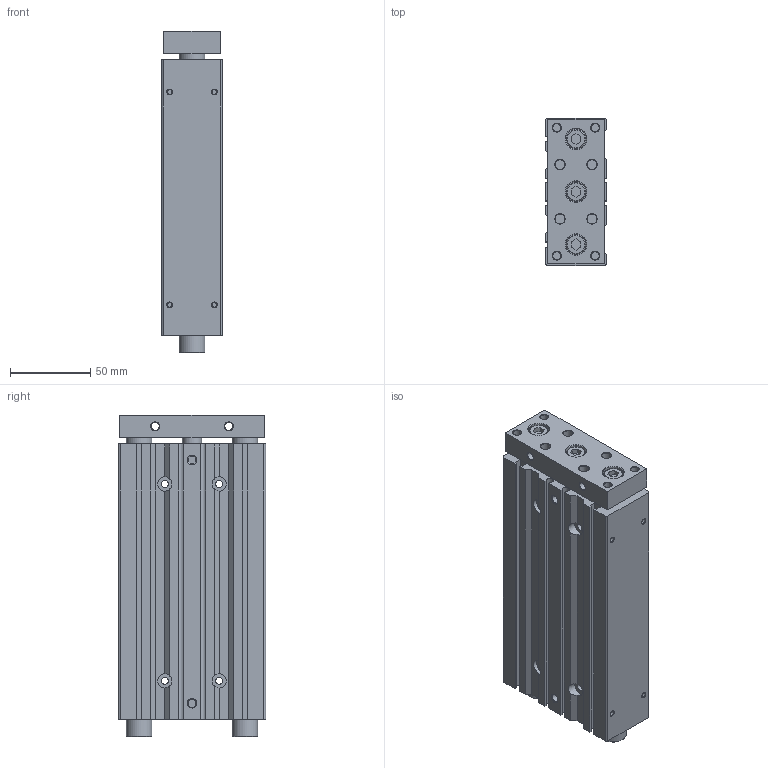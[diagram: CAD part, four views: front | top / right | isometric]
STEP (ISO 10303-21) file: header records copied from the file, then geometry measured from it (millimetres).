
FILE_DESCRIPTION((''),'2;1');
FILE_NAME('I:\3D電子目錄\氣缸\TB(U)\TB(U)25\TB(U)25\TB(U)25x125.stp','2007-08-06T08:24:03',('Administrator'),(''),'Autodesk Inventor 2008','Autodesk Inventor 2008','');
FILE_SCHEMA(('AUTOMOTIVE_DESIGN { 1 0 10303 214 1 1 1 1 }'));
Length unit declared in the file: millimetre
Products named in the file (1): TB(U)25X125
Bounding box: 38 x 92 x 201 mm (x, y, z)
Volume: 597667.3 mm3; surface area: 83718.1 mm2
Topology: 1 solids, 1 shells, 214 faces, 500 edges, 318 vertices
Faces by surface type: plane 104, cylinder 48, cone 39, bspline 20, torus 3
Full cylindrical faces by diameter (mm): 3 x4, 4.4 x4, 5 x6, 6 x8, 9 x4, 12 x4, 13 x3, 16 x4, 21 x2, 28 x1
Entity records: 5814 total; most frequent: CARTESIAN_POINT 1133, DIRECTION 968, ORIENTED_EDGE 808, EDGE_CURVE 404, AXIS2_PLACEMENT_3D 369, EDGE_LOOP 368, VERTEX_POINT 314, VECTOR 230
